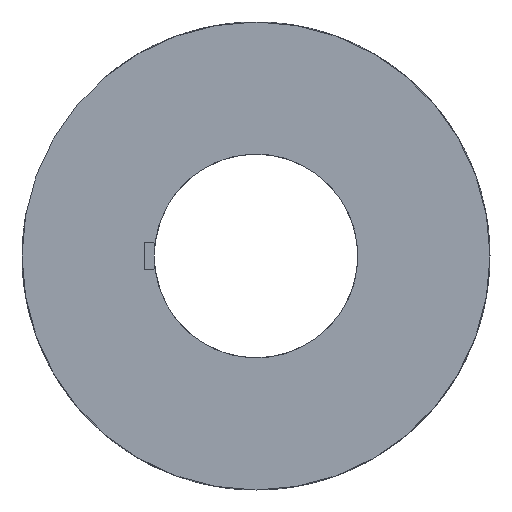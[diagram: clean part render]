
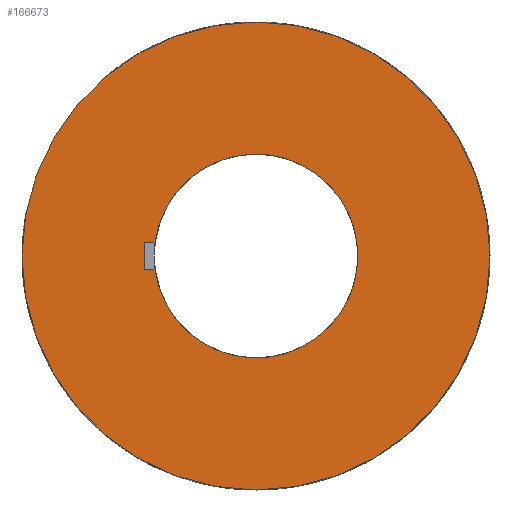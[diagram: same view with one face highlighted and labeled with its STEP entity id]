
A CAD part, left-side view. The second image highlights one B-rep face of the part: STEP entity #166673.
In plain terms, the highlighted planar face has unit normal (-1, 0, 0).
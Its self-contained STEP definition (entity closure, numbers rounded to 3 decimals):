
#165884 = CYLINDRICAL_SURFACE('',#165885,7.51);
#165885 = AXIS2_PLACEMENT_3D('',#165886,#165887,#165888);
#165886 = CARTESIAN_POINT('',(-51.,-92.,-57.));
#165887 = DIRECTION('',(1.,0.,0.));
#165888 = DIRECTION('',(0.,1.,0.));
#165900 = VERTEX_POINT('',#165901);
#165901 = CARTESIAN_POINT('',(-50.,-84.557,-56.));
#165916 = PLANE('',#165917);
#165917 = AXIS2_PLACEMENT_3D('',#165918,#165919,#165920);
#165918 = CARTESIAN_POINT('',(-51.5,-85.25,-56.));
#165919 = DIRECTION('',(0.,0.,1.));
#165920 = DIRECTION('',(1.,0.,0.));
#165928 = EDGE_CURVE('',#165900,#165929,#165931,.T.);
#165929 = VERTEX_POINT('',#165930);
#165930 = CARTESIAN_POINT('',(-50.,-84.557,-58.));
#165931 = SURFACE_CURVE('',#165932,(#165937,#165944),.PCURVE_S1.);
#165932 = CIRCLE('',#165933,7.51);
#165933 = AXIS2_PLACEMENT_3D('',#165934,#165935,#165936);
#165934 = CARTESIAN_POINT('',(-50.,-92.,-57.));
#165935 = DIRECTION('',(1.,0.,0.));
#165936 = DIRECTION('',(0.,1.,0.));
#165937 = PCURVE('',#165884,#165938);
#165938 = DEFINITIONAL_REPRESENTATION('',(#165939),#165943);
#165939 = LINE('',#165940,#165941);
#165940 = CARTESIAN_POINT('',(0.,1.));
#165941 = VECTOR('',#165942,1.);
#165942 = DIRECTION('',(1.,0.));
#165943 = ( GEOMETRIC_REPRESENTATION_CONTEXT(2) 
PARAMETRIC_REPRESENTATION_CONTEXT() REPRESENTATION_CONTEXT('2D SPACE',''
  ) );
#165944 = PCURVE('',#165945,#165950);
#165945 = PLANE('',#165946);
#165946 = AXIS2_PLACEMENT_3D('',#165947,#165948,#165949);
#165947 = CARTESIAN_POINT('',(-50.,-92.,-57.));
#165948 = DIRECTION('',(1.,0.,0.));
#165949 = DIRECTION('',(0.,1.,0.));
#165950 = DEFINITIONAL_REPRESENTATION('',(#165951),#165955);
#165951 = CIRCLE('',#165952,7.51);
#165952 = AXIS2_PLACEMENT_2D('',#165953,#165954);
#165953 = CARTESIAN_POINT('',(0.,0.));
#165954 = DIRECTION('',(1.,0.));
#165955 = ( GEOMETRIC_REPRESENTATION_CONTEXT(2) 
PARAMETRIC_REPRESENTATION_CONTEXT() REPRESENTATION_CONTEXT('2D SPACE',''
  ) );
#165972 = PLANE('',#165973);
#165973 = AXIS2_PLACEMENT_3D('',#165974,#165975,#165976);
#165974 = CARTESIAN_POINT('',(-51.5,-85.25,-58.));
#165975 = DIRECTION('',(0.,0.,1.));
#165976 = DIRECTION('',(1.,0.,0.));
#166564 = PLANE('',#166565);
#166565 = AXIS2_PLACEMENT_3D('',#166566,#166567,#166568);
#166566 = CARTESIAN_POINT('',(-51.5,-83.75,-58.));
#166567 = DIRECTION('',(0.,1.,0.));
#166568 = DIRECTION('',(0.,0.,1.));
#166580 = VERTEX_POINT('',#166581);
#166581 = CARTESIAN_POINT('',(-50.,-83.75,-58.));
#166602 = EDGE_CURVE('',#166580,#166603,#166605,.T.);
#166603 = VERTEX_POINT('',#166604);
#166604 = CARTESIAN_POINT('',(-50.,-83.75,-56.));
#166605 = SURFACE_CURVE('',#166606,(#166610,#166617),.PCURVE_S1.);
#166606 = LINE('',#166607,#166608);
#166607 = CARTESIAN_POINT('',(-50.,-83.75,-57.5));
#166608 = VECTOR('',#166609,1.);
#166609 = DIRECTION('',(0.,0.,1.));
#166610 = PCURVE('',#166564,#166611);
#166611 = DEFINITIONAL_REPRESENTATION('',(#166612),#166616);
#166612 = LINE('',#166613,#166614);
#166613 = CARTESIAN_POINT('',(0.5,1.5));
#166614 = VECTOR('',#166615,1.);
#166615 = DIRECTION('',(1.,0.));
#166616 = ( GEOMETRIC_REPRESENTATION_CONTEXT(2) 
PARAMETRIC_REPRESENTATION_CONTEXT() REPRESENTATION_CONTEXT('2D SPACE',''
  ) );
#166617 = PCURVE('',#165945,#166618);
#166618 = DEFINITIONAL_REPRESENTATION('',(#166619),#166623);
#166619 = LINE('',#166620,#166621);
#166620 = CARTESIAN_POINT('',(8.25,-0.5));
#166621 = VECTOR('',#166622,1.);
#166622 = DIRECTION('',(0.,1.));
#166623 = ( GEOMETRIC_REPRESENTATION_CONTEXT(2) 
PARAMETRIC_REPRESENTATION_CONTEXT() REPRESENTATION_CONTEXT('2D SPACE',''
  ) );
#166651 = EDGE_CURVE('',#166580,#165929,#166652,.T.);
#166652 = SURFACE_CURVE('',#166653,(#166657,#166664),.PCURVE_S1.);
#166653 = LINE('',#166654,#166655);
#166654 = CARTESIAN_POINT('',(-50.,-88.625,-58.));
#166655 = VECTOR('',#166656,1.);
#166656 = DIRECTION('',(0.,-1.,0.));
#166657 = PCURVE('',#165972,#166658);
#166658 = DEFINITIONAL_REPRESENTATION('',(#166659),#166663);
#166659 = LINE('',#166660,#166661);
#166660 = CARTESIAN_POINT('',(1.5,-3.375));
#166661 = VECTOR('',#166662,1.);
#166662 = DIRECTION('',(0.,-1.));
#166663 = ( GEOMETRIC_REPRESENTATION_CONTEXT(2) 
PARAMETRIC_REPRESENTATION_CONTEXT() REPRESENTATION_CONTEXT('2D SPACE',''
  ) );
#166664 = PCURVE('',#165945,#166665);
#166665 = DEFINITIONAL_REPRESENTATION('',(#166666),#166670);
#166666 = LINE('',#166667,#166668);
#166667 = CARTESIAN_POINT('',(3.375,-1.));
#166668 = VECTOR('',#166669,1.);
#166669 = DIRECTION('',(-1.,0.));
#166670 = ( GEOMETRIC_REPRESENTATION_CONTEXT(2) 
PARAMETRIC_REPRESENTATION_CONTEXT() REPRESENTATION_CONTEXT('2D SPACE',''
  ) );
#166673 = ADVANCED_FACE('',(#166674,#166705),#165945,.F.);
#166674 = FACE_BOUND('',#166675,.F.);
#166675 = EDGE_LOOP('',(#166676));
#166676 = ORIENTED_EDGE('',*,*,#166677,.T.);
#166677 = EDGE_CURVE('',#166678,#166678,#166680,.T.);
#166678 = VERTEX_POINT('',#166679);
#166679 = CARTESIAN_POINT('',(-50.,-74.75,-57.));
#166680 = SURFACE_CURVE('',#166681,(#166686,#166693),.PCURVE_S1.);
#166681 = CIRCLE('',#166682,17.25);
#166682 = AXIS2_PLACEMENT_3D('',#166683,#166684,#166685);
#166683 = CARTESIAN_POINT('',(-50.,-92.,-57.));
#166684 = DIRECTION('',(1.,0.,0.));
#166685 = DIRECTION('',(0.,1.,0.));
#166686 = PCURVE('',#165945,#166687);
#166687 = DEFINITIONAL_REPRESENTATION('',(#166688),#166692);
#166688 = CIRCLE('',#166689,17.25);
#166689 = AXIS2_PLACEMENT_2D('',#166690,#166691);
#166690 = CARTESIAN_POINT('',(0.,0.));
#166691 = DIRECTION('',(1.,0.));
#166692 = ( GEOMETRIC_REPRESENTATION_CONTEXT(2) 
PARAMETRIC_REPRESENTATION_CONTEXT() REPRESENTATION_CONTEXT('2D SPACE',''
  ) );
#166693 = PCURVE('',#166694,#166699);
#166694 = CYLINDRICAL_SURFACE('',#166695,17.25);
#166695 = AXIS2_PLACEMENT_3D('',#166696,#166697,#166698);
#166696 = CARTESIAN_POINT('',(-50.,-92.,-57.));
#166697 = DIRECTION('',(1.,0.,0.));
#166698 = DIRECTION('',(0.,1.,0.));
#166699 = DEFINITIONAL_REPRESENTATION('',(#166700),#166704);
#166700 = LINE('',#166701,#166702);
#166701 = CARTESIAN_POINT('',(0.,0.));
#166702 = VECTOR('',#166703,1.);
#166703 = DIRECTION('',(1.,0.));
#166704 = ( GEOMETRIC_REPRESENTATION_CONTEXT(2) 
PARAMETRIC_REPRESENTATION_CONTEXT() REPRESENTATION_CONTEXT('2D SPACE',''
  ) );
#166705 = FACE_BOUND('',#166706,.F.);
#166706 = EDGE_LOOP('',(#166707,#166708,#166729,#166730));
#166707 = ORIENTED_EDGE('',*,*,#165928,.F.);
#166708 = ORIENTED_EDGE('',*,*,#166709,.F.);
#166709 = EDGE_CURVE('',#166603,#165900,#166710,.T.);
#166710 = SURFACE_CURVE('',#166711,(#166715,#166722),.PCURVE_S1.);
#166711 = LINE('',#166712,#166713);
#166712 = CARTESIAN_POINT('',(-50.,-88.625,-56.));
#166713 = VECTOR('',#166714,1.);
#166714 = DIRECTION('',(0.,-1.,0.));
#166715 = PCURVE('',#165945,#166716);
#166716 = DEFINITIONAL_REPRESENTATION('',(#166717),#166721);
#166717 = LINE('',#166718,#166719);
#166718 = CARTESIAN_POINT('',(3.375,1.));
#166719 = VECTOR('',#166720,1.);
#166720 = DIRECTION('',(-1.,0.));
#166721 = ( GEOMETRIC_REPRESENTATION_CONTEXT(2) 
PARAMETRIC_REPRESENTATION_CONTEXT() REPRESENTATION_CONTEXT('2D SPACE',''
  ) );
#166722 = PCURVE('',#165916,#166723);
#166723 = DEFINITIONAL_REPRESENTATION('',(#166724),#166728);
#166724 = LINE('',#166725,#166726);
#166725 = CARTESIAN_POINT('',(1.5,-3.375));
#166726 = VECTOR('',#166727,1.);
#166727 = DIRECTION('',(0.,-1.));
#166728 = ( GEOMETRIC_REPRESENTATION_CONTEXT(2) 
PARAMETRIC_REPRESENTATION_CONTEXT() REPRESENTATION_CONTEXT('2D SPACE',''
  ) );
#166729 = ORIENTED_EDGE('',*,*,#166602,.F.);
#166730 = ORIENTED_EDGE('',*,*,#166651,.T.);
